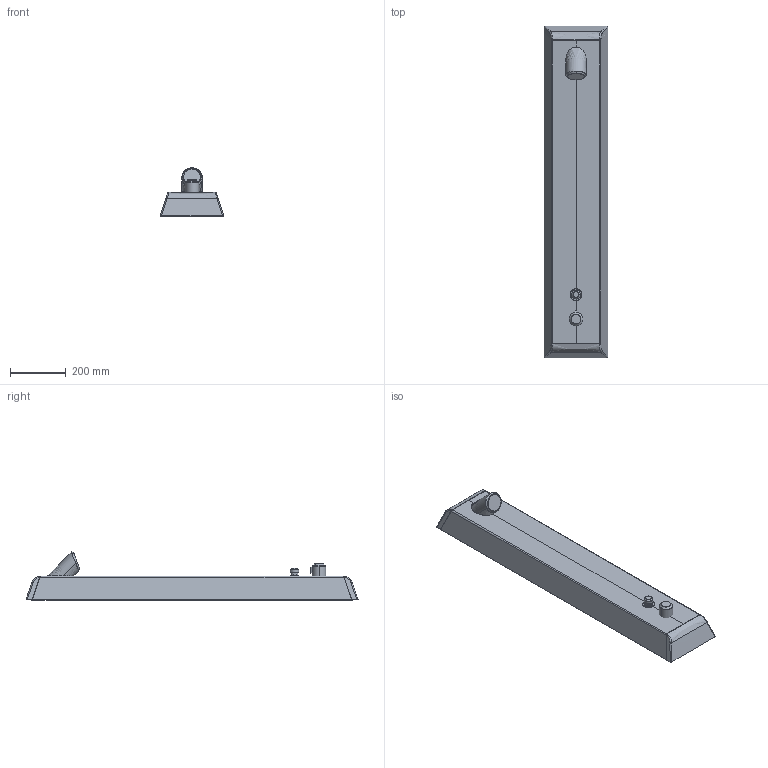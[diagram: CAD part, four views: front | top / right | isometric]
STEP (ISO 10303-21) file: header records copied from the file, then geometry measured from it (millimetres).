
FILE_DESCRIPTION (( 'STEP AP203' ), '1' );
FILE_NAME ('9650F(2026)+96501000(2026).STEP', '2026-02-10T08:54:37', ( '' ), ( '' ), 'SwSTEP 2.0', 'SolidWorks 2024', '' );
FILE_SCHEMA (( 'CONFIG_CONTROL_DESIGN' ));
Length unit declared in the file: millimetre
Products named in the file (1): 9650F(2026)+96501000(2026)
Bounding box: 229.87 x 1196.31 x 173.75 mm (x, y, z)
Volume: 20903196.2 mm3; surface area: 834939.1 mm2
Topology: 7 solids, 7 shells, 201 faces, 464 edges, 279 vertices
Faces by surface type: bspline 111, cylinder 47, plane 38, cone 5
Entity records: 13537 total; most frequent: CARTESIAN_POINT 9768, ORIENTED_EDGE 920, DIRECTION 527, EDGE_CURVE 460, VERTEX_POINT 279, AXIS2_PLACEMENT_3D 210, EDGE_LOOP 207, B_SPLINE_CURVE_WITH_KNOTS 207
